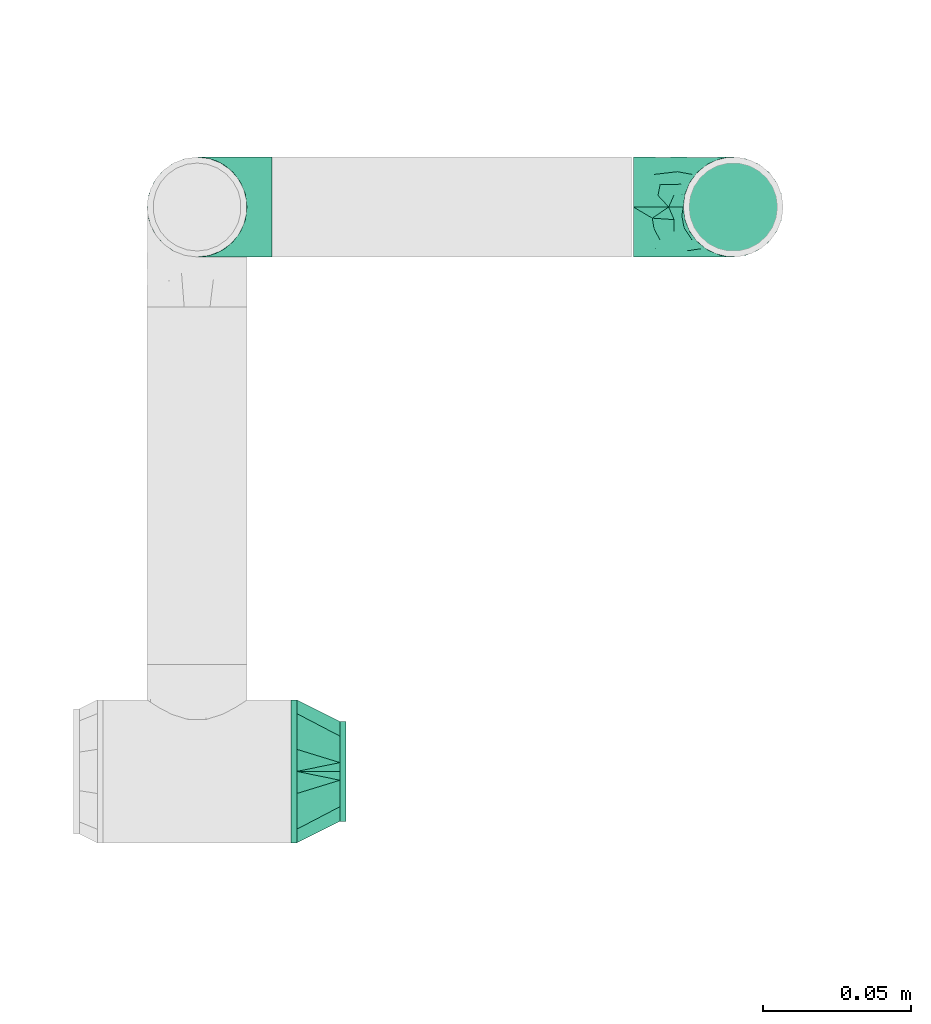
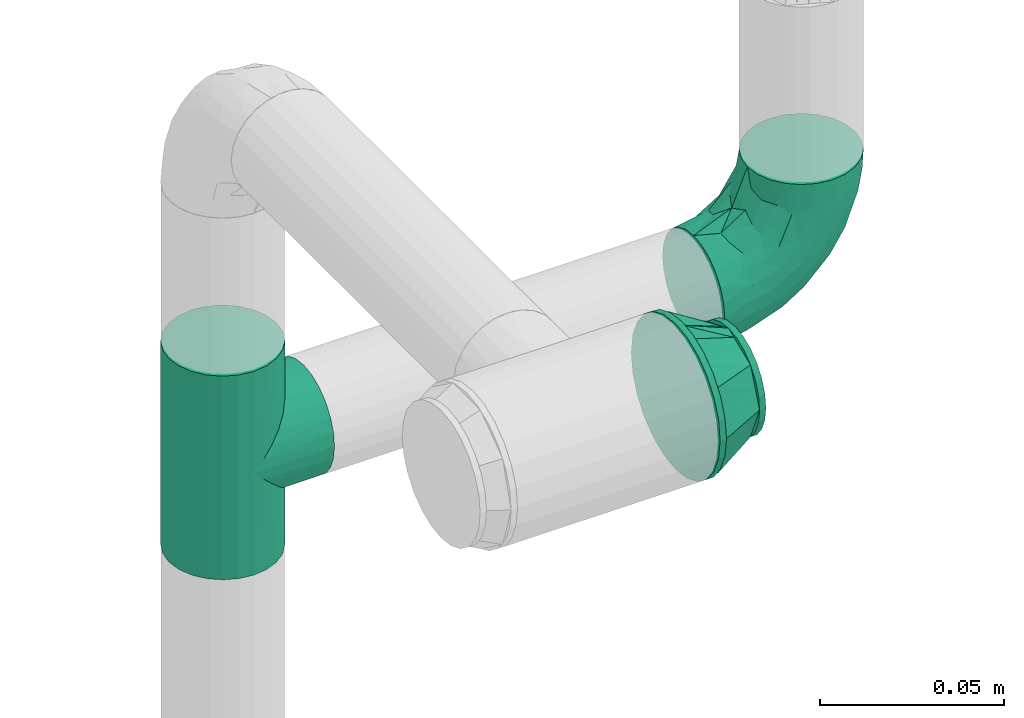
# One storey, part 133 of 157: 3 flow fittings.
"""IFC2X3 building model written with IfcOpenShell, lengths in millimetres."""

from ifc_helpers import new_model, entity, si_unit, converted_unit, derived_unit, direction, frame, origin_with_axes, place, context, subcontext, project, spatial, open_shell, surface_model, source, transform, mapped, type_object, element, save


model = new_model("IFC2X3")

# Units and contexts
model_context = context("Model", 3, precision=0.01, world=frame((0.0, 4.29681676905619e-09, 0.0)), true_north=direction((4.01073788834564e-13, 1.0)))
plan_context = context("Plan", 3, precision=0.01, world=frame((0.0, 4.29681676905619e-09, 0.0)), true_north=direction((4.01073788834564e-13, 1.0)))
body_context = subcontext(model_context, "Body", "Model", "MODEL_VIEW")
ifc_project = project(units=[converted_unit("PLANEANGLEUNIT", "DEGREE", entity("IfcPositiveLengthMeasure", 0.0174532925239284), si_unit("PLANEANGLEUNIT", "RADIAN"), dimensions=[0, 0, 0, 0, 0, 0, 0]), si_unit("AREAUNIT", "SQUARE_METRE"), si_unit("LENGTHUNIT", "METRE", prefix="MILLI"), si_unit("MASSUNIT", "GRAM", prefix="KILO"), si_unit("POWERUNIT", "WATT"), si_unit("PRESSUREUNIT", "PASCAL"), si_unit("FORCEUNIT", "NEWTON", prefix="KILO"), si_unit("ELECTRICCURRENTUNIT", "AMPERE"), si_unit("THERMODYNAMICTEMPERATUREUNIT", "DEGREE_CELSIUS"), si_unit("TIMEUNIT", "SECOND"), si_unit("VOLUMEUNIT", "CUBIC_METRE"), derived_unit("LINEARVELOCITYUNIT", [(si_unit("LENGTHUNIT", "METRE"), 1), (si_unit("TIMEUNIT", "SECOND"), -1)]), derived_unit("VOLUMETRICFLOWRATEUNIT", [(si_unit("VOLUMEUNIT", "CUBIC_METRE"), 1), (si_unit("TIMEUNIT", "SECOND"), -1)]), derived_unit("THERMALTRANSMITTANCEUNIT", [(si_unit("POWERUNIT", "WATT"), 1), (si_unit("THERMODYNAMICTEMPERATUREUNIT", "KELVIN"), -1), (si_unit("AREAUNIT", "SQUARE_METRE"), -1)])], contexts=[model_context, plan_context])

# Site, building, storey
site_placement = place(None, frame((0.0, -4.29681676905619e-09, 0.0), z_axis=(0.0, 0.0, 1.0), x_axis=(1.0, 0.0, 0.0)))
site = spatial("IfcSite", under=ifc_project, at=site_placement, CompositionType="ELEMENT")
building_placement = place(site_placement, frame((0.0, 4.29681676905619e-09, 0.0), z_axis=(0.0, 0.0, 1.0), x_axis=(1.0, 0.0, 0.0)))
building = spatial("IfcBuilding", under=site, at=building_placement, Name="mc-building", CompositionType="ELEMENT")
storey_placement = place(building_placement, frame((0.0, 0.0, 204000.0), z_axis=(0.0, 0.0, 1.0), x_axis=(1.0, 0.0, 0.0)))
storey = spatial("IfcBuildingStorey", under=building, at=storey_placement, Name="Nivå D", CompositionType="ELEMENT", Elevation=204000.0)

# Flow fittings
pipe_fitting_type_1 = type_object("IfcPipeFittingType", Name="magi_pipe_fe_tee_centric_90_NOR", PredefinedType="JUNCTION")
shared_shape_1 = source(origin_with_axes(), body_context, "Body", "SurfaceModel", [
    surface_model("IfcShellBasedSurfaceModel", [(-33.8, 4.37404, -16.32415), (-33.8, 0.0, -16.9), (-33.8, 16.32415, -4.37404), (-33.8, 8.45, -14.63583), (-33.8, 11.9501, -11.9501), (-33.8, 14.63583, -8.45), (-33.8, -16.9, 0.0), (-33.8, -11.9501, -11.9501), (-33.8, -14.63583, -8.45), (-33.8, -8.45, -14.63583), (-33.8, -4.37404, -16.32415), (-33.8, -16.32415, -4.37404), (-33.8, 14.63583, 8.45), (-33.8, 16.32415, 4.37404), (-33.8, -8.45, 14.63583), (-33.8, 8.45, 14.63583), (-33.8, 11.9501, 11.9501), (-33.8, 4.37404, 16.32415), (-33.8, 0.0, 16.9), (-33.8, -11.9501, 11.9501), (-33.8, -14.63583, 8.45), (-33.8, -16.32415, 4.37404), (-33.8, -4.37404, 16.32415), (-33.8, 16.9, 0.0), (33.8, 4.37404, -16.32415), (33.8, -16.9, 0.0), (33.8, 0.0, -16.9), (33.8, 14.63583, -8.45), (33.8, 8.45, -14.63583), (33.8, 16.32415, -4.37404), (33.8, 11.9501, -11.9501), (33.8, -16.32415, 4.37404), (33.8, -8.45, -14.63583), (33.8, -4.37404, -16.32415), (33.8, -11.9501, -11.9501), (33.8, -14.63583, -8.45), (33.8, -16.32415, -4.37404), (33.8, 16.32415, 4.37404), (33.8, 8.45, 14.63583), (33.8, 14.63583, 8.45), (33.8, 11.9501, 11.9501), (33.8, -8.45, 14.63583), (33.8, 4.37404, 16.32415), (33.8, -14.63583, 8.45), (33.8, -11.9501, 11.9501), (33.8, 0.0, 16.9), (33.8, -4.37404, 16.32415), (33.8, 16.9, 0.0), (16.28698, -16.28698, 4.51047), (16.9, -16.9, 0.0), (14.62704, -14.62704, 8.4652), (9.47213, -9.47213, 13.99602), (12.26343, -12.26343, 11.62834), (-16.9, -16.9, 0.0), (-16.28698, -16.28698, 4.51047), (-14.62704, -14.62704, 8.4652), (-12.26343, -12.26343, 11.62834), (-9.47213, -9.47213, 13.99602), (-6.42894, -6.42894, 15.62942), (6.42894, -6.42894, 15.62942), (3.24522, -3.24522, 16.58549), (0.0, 0.0, 16.9), (-3.24522, -3.24522, 16.58549), (3.24522, -3.24522, -16.58549), (0.0, 0.0, -16.9), (-3.24522, -3.24522, -16.58549), (-6.42894, -6.42894, -15.62942), (6.42894, -6.42894, -15.62942), (9.47213, -9.47213, -13.99602), (12.26343, -12.26343, -11.62834), (14.62704, -14.62704, -8.4652), (16.28698, -16.28698, -4.51047), (-9.47213, -9.47213, -13.99602), (-12.26343, -12.26343, -11.62834), (-16.28698, -16.28698, -4.51047), (-14.62704, -14.62704, -8.4652), (4.37404, -25.35, -16.32415), (-16.9, -25.35, 0.0), (0.0, -25.35, -16.9), (14.63583, -25.35, -8.45), (8.45, -25.35, -14.63583), (16.32415, -25.35, -4.37404), (11.9501, -25.35, -11.9501), (-11.9501, -25.35, -11.9501), (-8.45, -25.35, -14.63583), (-4.37404, -25.35, -16.32415), (-14.63583, -25.35, -8.45), (-16.32415, -25.35, -4.37404), (16.9, -25.35, 0.0), (8.45, -25.35, 14.63583), (16.32415, -25.35, 4.37404), (14.63583, -25.35, 8.45), (-8.45, -25.35, 14.63583), (11.9501, -25.35, 11.9501), (4.37404, -25.35, 16.32415), (-16.32415, -25.35, 4.37404), (-11.9501, -25.35, 11.9501), (-14.63583, -25.35, 8.45), (0.0, -25.35, 16.9), (-4.37404, -25.35, 16.32415)], [open_shell([[[0, 1, 2]], [[3, 0, 4]], [[0, 2, 5]], [[4, 0, 5]], [[6, 2, 1]], [[7, 8, 9]], [[1, 10, 9]], [[11, 6, 8]], [[1, 9, 8]], [[1, 8, 6]], [[6, 12, 2]], [[12, 13, 2]], [[14, 12, 6]], [[12, 14, 15]], [[16, 12, 15]], [[17, 15, 18]], [[19, 14, 20]], [[21, 20, 14]], [[22, 18, 14]], [[14, 6, 21]], [[14, 18, 15]], [[23, 2, 13]], [[24, 25, 26]], [[27, 24, 28]], [[27, 29, 24]], [[27, 28, 30]], [[31, 25, 24]], [[26, 32, 33]], [[26, 34, 32]], [[35, 25, 36]], [[35, 34, 26]], [[25, 35, 26]], [[24, 29, 31]], [[29, 37, 38]], [[38, 37, 39]], [[38, 31, 29]], [[38, 39, 40]], [[41, 38, 42]], [[43, 41, 44]], [[41, 43, 31]], [[41, 45, 46]], [[41, 31, 38]], [[42, 45, 41]], [[29, 47, 37]], [[31, 43, 48]], [[25, 31, 49]], [[49, 31, 48]], [[43, 50, 48]], [[44, 41, 51]], [[50, 43, 52]], [[51, 52, 44]], [[52, 43, 44]], [[53, 54, 21]], [[53, 21, 6]], [[21, 54, 20]], [[54, 55, 20]], [[56, 57, 19]], [[19, 20, 56]], [[19, 57, 14]], [[56, 20, 55]], [[14, 57, 58]], [[51, 41, 59]], [[60, 45, 61]], [[59, 46, 60]], [[46, 59, 41]], [[60, 46, 45]], [[61, 45, 42]], [[39, 37, 13]], [[16, 38, 40]], [[12, 40, 39]], [[42, 38, 15]], [[23, 37, 47]], [[62, 61, 18]], [[62, 22, 58]], [[22, 62, 18]], [[58, 22, 14]], [[61, 17, 18]], [[42, 17, 61]], [[15, 17, 42]], [[15, 38, 16]], [[12, 16, 40]], [[13, 12, 39]], [[37, 23, 13]], [[5, 27, 30]], [[23, 47, 29]], [[30, 28, 3]], [[27, 2, 29]], [[26, 33, 63]], [[26, 64, 24]], [[64, 26, 63]], [[28, 24, 0]], [[64, 0, 24]], [[4, 30, 3]], [[2, 27, 5]], [[5, 30, 4]], [[2, 23, 29]], [[65, 66, 10]], [[1, 0, 64]], [[1, 65, 10]], [[66, 9, 10]], [[0, 3, 28]], [[1, 64, 65]], [[63, 33, 67]], [[32, 34, 68]], [[69, 68, 34]], [[35, 70, 69]], [[69, 34, 35]], [[32, 68, 67]], [[36, 25, 49]], [[36, 71, 35]], [[71, 36, 49]], [[35, 71, 70]], [[72, 9, 66]], [[72, 7, 9]], [[7, 72, 73]], [[7, 73, 8]], [[74, 53, 11]], [[75, 74, 8]], [[74, 11, 8]], [[11, 53, 6]], [[75, 8, 73]], [[32, 67, 33]], [[76, 77, 78]], [[79, 76, 80]], [[79, 81, 76]], [[79, 80, 82]], [[77, 76, 81]], [[78, 83, 84]], [[84, 85, 78]], [[86, 77, 87]], [[83, 78, 86]], [[77, 86, 78]], [[81, 88, 77]], [[89, 88, 90]], [[89, 90, 91]], [[92, 77, 89]], [[89, 91, 93]], [[92, 89, 94]], [[95, 96, 97]], [[96, 95, 92]], [[92, 98, 99]], [[95, 77, 92]], [[94, 98, 92]], [[89, 77, 88]], [[77, 95, 53]], [[54, 53, 95]], [[97, 96, 56]], [[96, 92, 57]], [[95, 97, 54]], [[58, 92, 99]], [[55, 54, 97]], [[56, 55, 97]], [[58, 57, 92]], [[98, 61, 62]], [[58, 99, 62]], [[56, 96, 57]], [[62, 99, 98]], [[94, 60, 98]], [[89, 59, 94]], [[91, 90, 48]], [[52, 93, 91]], [[93, 51, 89]], [[49, 90, 88]], [[59, 60, 94]], [[51, 59, 89]], [[49, 48, 90]], [[50, 52, 91]], [[48, 50, 91]], [[51, 93, 52]], [[98, 60, 61]], [[88, 81, 49]], [[71, 49, 81]], [[79, 82, 69]], [[82, 80, 68]], [[81, 79, 71]], [[67, 80, 76]], [[70, 71, 79]], [[69, 70, 79]], [[67, 68, 80]], [[78, 64, 63]], [[67, 76, 63]], [[69, 82, 68]], [[63, 76, 78]], [[85, 65, 78]], [[84, 66, 85]], [[86, 87, 74]], [[86, 73, 83]], [[72, 84, 83]], [[53, 87, 77]], [[66, 65, 85]], [[72, 66, 84]], [[53, 74, 87]], [[75, 73, 86]], [[74, 75, 86]], [[72, 83, 73]], [[78, 65, 64]]])]),
])
flow_fitting_1_placement = place(storey_placement, frame((518009.38219, 420297.85762, 2570.0), z_axis=(0.0, -1.0, 0.0), x_axis=(0.0, 0.0, 1.0)))
element("IfcFlowFitting", 1, at=flow_fitting_1_placement, inside=storey, type_object=pipe_fitting_type_1, Name="magi_pipe_fe_tee_centric_90_NOR", context=body_context, shape_type="MappedRepresentation", body=[
    mapped(shared_shape_1, transform((0.0, 0.0, 0.0), scale=1.0)),
])
pipe_fitting_type_2 = type_object("IfcPipeFittingType", Name="magi_pipe_fe_elbow_short_001", PredefinedType="BEND")
shared_shape_2 = source(origin_with_axes(), body_context, "Body", "SurfaceModel", [
    surface_model("IfcShellBasedSurfaceModel", [(-33.8, 8.45, -14.63583), (-33.8, 4.37404, -16.32415), (-33.8, 11.9501, -11.9501), (-33.8, -11.9501, -11.9501), (-33.8, -14.63583, -8.45), (-33.8, -8.45, -14.63583), (-33.8, 0.0, -16.9), (-33.8, -4.37404, -16.32415), (-33.8, -4.37404, 16.32415), (-33.8, 0.0, 16.9), (-33.8, -8.45, 14.63583), (-33.8, 16.32415, -4.37404), (-33.8, 14.63583, -8.45), (-33.8, -16.32415, -4.37404), (-33.8, -16.9, 0.0), (-33.8, -16.32415, 4.37404), (-33.8, 11.9501, 11.9501), (-33.8, 14.63583, 8.45), (-33.8, 16.32415, 4.37404), (-33.8, 4.37404, 16.32415), (-33.8, 8.45, 14.63583), (-33.8, -14.63583, 8.45), (-33.8, -11.9501, 11.9501), (-33.8, 16.9, 0.0), (-11.9501, 33.8, -11.9501), (0.0, 33.8, -16.9), (-4.37404, 33.8, -16.32415), (-8.45, 33.8, -14.63583), (-14.63583, 33.8, -8.45), (-16.32415, 33.8, -4.37404), (14.63583, 33.8, -8.45), (8.45, 33.8, 14.63583), (16.32415, 33.8, -4.37404), (8.45, 33.8, -14.63583), (11.9501, 33.8, -11.9501), (4.37404, 33.8, -16.32415), (16.32415, 33.8, 4.37404), (16.9, 33.8, 0.0), (-11.9501, 33.8, 11.9501), (-16.32415, 33.8, 4.37404), (-14.63583, 33.8, 8.45), (-8.45, 33.8, 14.63583), (-4.37404, 33.8, 16.32415), (11.9501, 33.8, 11.9501), (14.63583, 33.8, 8.45), (0.0, 33.8, 16.9), (4.37404, 33.8, 16.32415), (-16.9, 33.8, 0.0), (-24.79389, -13.12945, 9.48721), (-22.19287, -9.75018, 12.59315), (-24.09897, -14.97035, 0.0), (-14.93934, -10.76256, 8.5297), (-22.46095, -14.75051, 5.27077), (14.75051, 22.46094, 5.27077), (11.9251, 13.23888, 4.33236), (13.04069, 14.39795, 0.0), (7.71387, 13.68847, 11.55891), (9.75018, 22.19287, 12.59315), (4.10169, 13.0571, 14.04018), (-24.84007, -6.39063, 15.2048), (-25.81779, -2.23879, 16.61097), (-23.66549, 2.59054, 16.87119), (-26.50418, 14.06512, 11.08152), (-24.21253, 17.66365, 7.72657), (-29.58514, 15.86957, 7.00283), (-6.17382, -7.5455, 0.0), (-13.23888, -11.9251, 4.33236), (-14.39795, -13.04069, 0.0), (-17.81434, 18.87373, 11.97104), (-6.30846, 29.15138, 15.82987), (-2.31622, 25.28002, 16.85849), (-29.23923, 10.23435, 13.77053), (-1.45439, -2.85688, 7.61475), (-0.28326, 0.34872, 10.09509), (-5.74484, -4.04709, 10.4122), (-4.41137, 11.31918, 16.59407), (-8.39727, 3.10034, 15.7812), (-1.72649, 9.1306, 15.53089), (-17.39909, 24.75344, 7.64977), (-26.19233, 20.0512, 0.0), (-28.14518, 17.29657, 4.25857), (-26.05147, 6.6281, 15.96447), (-5.87354, 16.61944, 16.86968), (-12.51807, 12.51807, 16.48937), (-10.06312, 7.38516, 16.81295), (-3.01882, 3.01882, 13.81718), (-13.0571, -4.10169, 14.04018), (-16.82553, -0.15166, 16.38038), (10.76256, 14.93934, 8.5297), (13.12945, 24.79389, 9.48721), (6.39063, 24.84007, 15.2048), (2.23879, 25.81779, 16.61097), (-13.68847, -7.71387, 11.55891), (14.97035, 24.09897, 0.0), (-7.30894, 22.89991, 16.09489), (-10.67958, 26.17414, 14.008), (-12.78295, 18.26924, 15.06066), (-13.88562, 22.45231, 12.93244), (-18.04944, 15.16501, 14.04434), (-23.11658, 20.08178, 4.02986), (-21.84989, 21.84989, 0.0), (-18.55817, 25.48277, 3.93065), (-13.95142, 26.94732, 11.03289), (-18.57098, 7.23906, 16.59756), (-16.58335, 4.14122, 16.89279), (-17.96666, 11.46709, 15.63151), (-9.84453, 17.54304, 16.18938), (0.15166, 16.82553, 16.38038), (-23.27207, 11.47201, 14.23154), (3.84842, 5.86994, 10.70473), (-8.0212, -7.54413, 7.93275), (1.00345, -2.19508, 4.57414), (5.13203, 3.01004, 5.90201), (5.24161, 1.7543, 2.53265), (8.70457, 7.04947, 3.99182), (-20.0512, 26.19233, 0.0), (8.4852, 8.76699, 7.09296), (-4.55488, -6.72064, 4.90681), (2.05031, -2.05031, 0.0), (7.5455, 6.17382, 0.0), (-26.75399, 2.1369, -16.845), (-14.61995, 24.73803, -11.27736), (-28.45274, -13.45335, -9.81895), (-26.00469, 6.63555, -15.96645), (-23.06726, 20.04573, -4.26202), (-13.80647, -4.26506, -14.17873), (-14.67501, -0.21081, -16.07388), (-6.7902, -0.2828, -13.8478), (-24.53586, 11.08096, -14.13417), (-26.72048, 14.00837, -11.05776), (10.0967, 24.44989, -12.75976), (5.83237, 21.40218, -15.03047), (6.66249, 28.54238, -15.38093), (-20.38182, 15.48705, -12.74596), (12.53268, 21.23441, -9.15363), (12.54494, 15.67504, -5.54878), (9.7522, 12.89279, -8.66343), (-15.65186, 19.64213, -13.01327), (-12.03528, 20.66498, -14.67665), (-15.61907, 15.61906, -14.83879), (-25.56551, -15.26206, 0.0), (-24.65452, -15.12934, -5.50955), (13.45335, 28.45274, -9.81895), (15.12934, 24.65452, -5.50955), (-7.35442, -8.31014, -5.65563), (-15.67504, -12.54494, -5.54878), (-24.44989, -10.0967, -12.75976), (0.16522, 0.41303, -9.71728), (-5.70658, -5.33066, -8.89288), (-5.13869, -2.37198, -11.53565), (-21.23441, -12.53268, -9.15363), (0.71146, 7.93863, -14.09382), (0.21081, 14.67501, -16.07388), (3.49291, 14.42772, -14.76381), (-24.89911, -2.13088, -16.591), (-28.54238, -6.66249, -15.38093), (-18.44386, -7.71663, -13.26957), (2.13088, 24.89911, -16.591), (-28.64342, 17.44413, -2.89318), (1.70017, -1.28722, -5.09504), (-16.57067, 26.81947, -7.36596), (-17.69055, 27.4263, -3.76405), (-12.89279, -9.7522, -8.66343), (-5.96611, 5.96611, -15.95814), (-20.53709, 20.09345, -8.28985), (-2.1369, 26.75399, -16.845), (-6.89872, 24.58781, -16.02578), (-10.60739, 26.53157, -13.98044), (-21.40218, -5.83237, -15.03047), (2.93192, 5.89627, -11.55917), (6.89393, 12.61842, -11.82233), (5.58056, 5.95325, -8.79455), (-3.99512, 18.61798, -16.89635), (8.31014, 7.35442, -5.65563), (-9.1383, 9.86148, -16.89041), (-9.99983, 16.02119, -16.39699), (-16.68576, 9.78031, -16.34199), (-27.01915, 16.61158, -7.12979), (15.26206, 25.56551, 0.0), (-18.61798, 3.99512, -16.89635), (-19.37495, 27.82495, 0.0), (-12.61842, -6.89393, -11.82233), (-18.84705, 19.14018, -10.96545)], [open_shell([[[0, 1, 2]], [[3, 4, 5]], [[6, 7, 5]], [[8, 9, 10]], [[1, 6, 2]], [[11, 12, 2]], [[4, 2, 6]], [[2, 13, 10]], [[5, 4, 6]], [[2, 4, 13]], [[14, 15, 13]], [[11, 2, 16]], [[11, 17, 18]], [[11, 16, 17]], [[19, 20, 16]], [[16, 2, 10]], [[19, 16, 10]], [[21, 22, 15]], [[22, 13, 15]], [[22, 10, 13]], [[10, 9, 19]], [[11, 18, 23]], [[24, 25, 26]], [[24, 26, 27]], [[24, 28, 29]], [[25, 24, 30]], [[31, 32, 24]], [[33, 30, 34]], [[33, 35, 25]], [[25, 30, 33]], [[32, 30, 24]], [[32, 36, 37]], [[38, 24, 29]], [[39, 40, 29]], [[40, 38, 29]], [[38, 41, 42]], [[38, 31, 24]], [[31, 38, 42]], [[36, 43, 44]], [[36, 32, 43]], [[31, 45, 46]], [[32, 31, 43]], [[42, 45, 31]], [[39, 29, 47]], [[22, 48, 49]], [[15, 14, 50]], [[51, 48, 52]], [[53, 54, 55]], [[48, 22, 21]], [[15, 52, 21]], [[56, 57, 58]], [[49, 10, 22]], [[49, 59, 10]], [[9, 60, 61]], [[62, 63, 64]], [[65, 66, 67]], [[57, 43, 31]], [[62, 68, 63]], [[42, 69, 70]], [[20, 71, 16]], [[8, 60, 9]], [[72, 73, 74]], [[75, 76, 77]], [[16, 62, 17]], [[40, 39, 78]], [[79, 23, 80]], [[64, 18, 17]], [[9, 61, 19]], [[19, 81, 20]], [[82, 83, 84]], [[74, 85, 86]], [[59, 86, 87]], [[88, 89, 57]], [[90, 31, 46]], [[44, 53, 36]], [[46, 45, 91]], [[54, 53, 88]], [[44, 89, 53]], [[92, 86, 49]], [[89, 44, 43]], [[10, 59, 8]], [[53, 55, 93]], [[93, 36, 53]], [[66, 52, 67]], [[94, 82, 70]], [[95, 96, 94]], [[97, 98, 96]], [[79, 99, 100]], [[41, 38, 95]], [[101, 100, 99]], [[68, 78, 63]], [[42, 41, 69]], [[23, 18, 80]], [[95, 94, 69]], [[78, 101, 99]], [[38, 102, 95]], [[70, 45, 42]], [[97, 95, 102]], [[15, 50, 52]], [[90, 57, 31]], [[57, 90, 58]], [[81, 19, 61]], [[103, 104, 84]], [[105, 81, 103]], [[38, 40, 102]], [[106, 96, 83]], [[94, 106, 82]], [[91, 70, 107]], [[71, 62, 16]], [[62, 108, 98]], [[86, 59, 49]], [[67, 52, 50]], [[60, 59, 87]], [[92, 49, 51]], [[86, 85, 76]], [[91, 90, 46]], [[37, 36, 93]], [[107, 77, 58]], [[107, 58, 90]], [[58, 85, 109]], [[110, 74, 92]], [[72, 74, 110]], [[66, 51, 52]], [[72, 111, 112]], [[113, 114, 112]], [[56, 88, 57]], [[52, 48, 21]], [[49, 48, 51]], [[57, 89, 43]], [[53, 89, 88]], [[103, 81, 61]], [[71, 81, 108]], [[18, 64, 80]], [[63, 78, 99]], [[47, 115, 101]], [[101, 115, 100]], [[40, 78, 102]], [[68, 102, 78]], [[97, 96, 95]], [[105, 98, 108]], [[103, 84, 83]], [[107, 70, 82]], [[76, 84, 87]], [[82, 84, 75]], [[70, 91, 45]], [[90, 91, 107]], [[59, 60, 8]], [[61, 60, 87]], [[73, 85, 74]], [[109, 112, 116]], [[103, 61, 104]], [[105, 103, 83]], [[96, 105, 83]], [[81, 105, 108]], [[96, 98, 105]], [[62, 98, 68]], [[61, 87, 104]], [[87, 84, 104]], [[86, 76, 87]], [[77, 76, 85]], [[58, 77, 85]], [[75, 77, 107]], [[82, 75, 107]], [[76, 75, 84]], [[81, 71, 20]], [[62, 71, 108]], [[95, 69, 41]], [[70, 69, 94]], [[62, 64, 17]], [[80, 63, 99]], [[63, 80, 64]], [[80, 99, 79]], [[66, 65, 117]], [[110, 66, 117]], [[112, 114, 116]], [[118, 117, 65]], [[110, 92, 51]], [[112, 111, 113]], [[119, 55, 54]], [[74, 86, 92]], [[58, 109, 56]], [[116, 56, 109]], [[66, 110, 51]], [[72, 110, 117]], [[111, 72, 117]], [[73, 112, 109]], [[117, 118, 111]], [[113, 111, 118]], [[118, 119, 113]], [[114, 119, 54]], [[119, 114, 113]], [[116, 54, 88]], [[54, 116, 114]], [[116, 88, 56]], [[112, 73, 72]], [[85, 73, 109]], [[78, 39, 101]], [[47, 101, 39]], [[102, 68, 97]], [[97, 68, 98]], [[82, 106, 83]], [[94, 96, 106]], [[1, 120, 6]], [[28, 24, 121]], [[3, 122, 4]], [[0, 123, 1]], [[100, 124, 79]], [[125, 126, 127]], [[128, 2, 129]], [[130, 131, 132]], [[128, 129, 133]], [[134, 135, 136]], [[137, 138, 139]], [[128, 0, 2]], [[67, 140, 141]], [[134, 142, 143]], [[141, 13, 4]], [[144, 65, 145]], [[146, 3, 5]], [[147, 148, 149]], [[145, 141, 150]], [[151, 152, 153]], [[154, 7, 6]], [[5, 155, 146]], [[150, 146, 156]], [[155, 5, 7]], [[143, 135, 134]], [[35, 157, 25]], [[23, 79, 158]], [[148, 159, 144]], [[160, 161, 29]], [[145, 162, 144]], [[163, 152, 151]], [[29, 28, 160]], [[121, 164, 160]], [[33, 34, 130]], [[25, 165, 26]], [[26, 165, 166]], [[142, 34, 30]], [[24, 27, 167]], [[124, 161, 164]], [[157, 35, 132]], [[155, 154, 168]], [[123, 0, 128]], [[169, 170, 171]], [[172, 157, 152]], [[26, 166, 27]], [[132, 35, 33]], [[142, 130, 34]], [[168, 154, 126]], [[136, 135, 173]], [[133, 137, 139]], [[2, 12, 129]], [[170, 131, 130]], [[30, 32, 143]], [[172, 174, 175]], [[176, 123, 128]], [[158, 177, 11]], [[135, 55, 119]], [[167, 27, 166]], [[175, 166, 172]], [[137, 167, 138]], [[122, 141, 4]], [[140, 14, 13]], [[32, 37, 178]], [[170, 130, 134]], [[152, 157, 131]], [[165, 157, 172]], [[153, 170, 151]], [[152, 163, 174]], [[168, 125, 156]], [[122, 146, 150]], [[120, 154, 6]], [[179, 174, 126]], [[179, 126, 154]], [[126, 163, 127]], [[162, 145, 150]], [[140, 13, 141]], [[32, 178, 143]], [[55, 143, 178]], [[177, 129, 12]], [[128, 133, 139]], [[176, 128, 139]], [[120, 123, 179]], [[121, 160, 28]], [[161, 100, 180]], [[166, 175, 138]], [[121, 24, 167]], [[161, 47, 29]], [[79, 124, 158]], [[124, 164, 177]], [[161, 124, 100]], [[136, 171, 170]], [[127, 163, 151]], [[147, 171, 159]], [[148, 144, 162]], [[127, 151, 169]], [[127, 181, 125]], [[129, 177, 164]], [[12, 11, 177]], [[159, 65, 144]], [[67, 141, 145]], [[143, 55, 135]], [[135, 119, 173]], [[123, 120, 1]], [[154, 120, 179]], [[157, 165, 25]], [[166, 165, 172]], [[172, 152, 174]], [[176, 139, 175]], [[126, 174, 163]], [[176, 174, 179]], [[174, 176, 175]], [[123, 176, 179]], [[150, 181, 162]], [[127, 149, 181]], [[181, 148, 162]], [[159, 148, 147]], [[171, 136, 173]], [[170, 134, 136]], [[159, 171, 173]], [[171, 147, 169]], [[169, 147, 149]], [[151, 170, 169]], [[164, 182, 129]], [[182, 121, 137]], [[181, 149, 148]], [[169, 149, 127]], [[182, 137, 133]], [[167, 137, 121]], [[166, 138, 167]], [[175, 139, 138]], [[129, 182, 133]], [[121, 182, 164]], [[161, 160, 164]], [[47, 161, 180]], [[177, 158, 124]], [[23, 158, 11]], [[130, 132, 33]], [[157, 132, 131]], [[143, 142, 30]], [[130, 142, 134]], [[154, 155, 7]], [[146, 155, 168]], [[146, 122, 3]], [[141, 122, 150]], [[152, 131, 153]], [[159, 119, 118]], [[67, 145, 65]], [[170, 153, 131]], [[119, 159, 173]], [[159, 118, 65]], [[156, 125, 181]], [[126, 125, 168]], [[150, 156, 181]], [[168, 156, 146]]])]),
])
flow_fitting_2_placement = place(storey_placement, frame((518190.99696, 420297.85762, 2570.0), z_axis=(0.0, 1.0, 0.0), x_axis=(0.0, 0.0, -1.0)))
element("IfcFlowFitting", 2, at=flow_fitting_2_placement, inside=storey, type_object=pipe_fitting_type_2, Name="magi_pipe_fe_elbow_short_001", context=body_context, shape_type="MappedRepresentation", body=[
    mapped(shared_shape_2, transform((0.0, 0.0, 0.0), scale=1.0)),
])
pipe_fitting_type_3 = type_object("IfcPipeFittingType", Name="magi_pipe_fe_reducer_centric_short_NOR", PredefinedType="TRANSITION")
shared_shape_3 = source(origin_with_axes(), body_context, "Body", "SurfaceModel", [
    surface_model("IfcShellBasedSurfaceModel", [(-2.0, 0.0, 24.2), (-2.0, 6.26342, 23.37541), (-2.0, 12.1, 20.95781), (-2.0, 17.11198, 17.11198), (-2.0, 24.2, 0.0), (-2.0, 20.95781, 12.1), (-2.0, -23.37541, 6.26342), (-2.0, -17.11198, -17.11198), (-2.0, -6.26342, 23.37541), (-2.0, -17.11198, 17.11198), (-2.0, -12.1, 20.95781), (-2.0, -20.95781, 12.1), (-2.0, -24.2, 0.0), (-2.0, 23.37541, 6.26342), (-2.0, 23.37541, -6.26342), (-2.0, 6.26342, -23.37541), (-2.0, 17.11198, -17.11198), (-2.0, 20.95781, -12.1), (-2.0, 12.1, -20.95781), (-2.0, -23.37541, -6.26342), (-2.0, -20.95781, -12.1), (-2.0, -6.26342, -23.37541), (-2.0, -12.1, -20.95781), (-2.0, 0.0, -24.2), (0.0, 24.2, 0.0), (0.0, 6.26342, -23.37541), (0.0, 12.1, -20.95781), (0.0, 23.37541, -6.26342), (0.0, 17.11198, -17.11198), (0.0, 20.95781, -12.1), (0.0, -24.2, 0.0), (0.0, -12.1, -20.95781), (0.0, -6.26342, -23.37541), (0.0, 0.0, -24.2), (0.0, -17.11198, -17.11198), (0.0, -23.37541, -6.26342), (0.0, -20.95781, -12.1), (0.0, 20.95781, 12.1), (0.0, 17.11198, 17.11198), (0.0, 12.1, 20.95781), (0.0, 6.26342, 23.37541), (0.0, 0.0, 24.2), (0.0, -23.37541, 6.26342), (0.0, -17.11198, 17.11198), (0.0, -20.95781, 12.1), (0.0, -6.26342, 23.37541), (0.0, -12.1, 20.95781), (0.0, 23.37541, 6.26342), (0.0, 7.47821, 23.01557), (0.0, 19.57821, 14.2244), (0.0, -7.47821, 23.01557), (0.0, 7.47821, -23.01557), (0.0, 19.57821, -14.2244), (0.0, -7.47821, -23.01557), (0.0, -19.57821, -14.2244), (16.6, 4.37404, -16.32415), (16.6, 8.45, -14.63583), (16.6, 11.9501, -11.9501), (16.6, 0.0, -16.9), (16.6, 16.32415, -4.37404), (16.6, 16.32415, 4.37404), (16.6, 14.63583, -8.45), (16.6, -8.45, 14.63583), (16.6, -8.45, -14.63583), (16.6, -4.37404, -16.32415), (16.6, -11.9501, -11.9501), (16.6, -16.32415, -4.37404), (16.6, -14.63583, -8.45), (16.6, -16.32415, 4.37404), (16.6, 16.9, 0.0), (16.6, 14.63583, 8.45), (16.6, 11.9501, 11.9501), (16.6, 4.37404, 16.32415), (16.6, 8.45, 14.63583), (16.6, 0.0, 16.9), (16.6, -14.63583, 8.45), (16.6, -16.9, 0.0), (16.6, -11.9501, 11.9501), (16.6, -4.37404, 16.32415), (14.6, 11.9501, 11.9501), (14.6, 0.0, 16.9), (14.6, 4.37404, 16.32415), (14.6, 8.45, 14.63583), (14.6, 14.63583, 8.45), (14.6, 16.32415, 4.37404), (14.6, -16.32415, 4.37404), (14.6, -8.45, -14.63583), (14.6, -8.45, 14.63583), (14.6, -14.63583, 8.45), (14.6, -11.9501, 11.9501), (14.6, -4.37404, 16.32415), (14.6, -16.32415, -4.37404), (14.6, -16.9, 0.0), (14.6, 16.32415, -4.37404), (14.6, 11.9501, -11.9501), (14.6, 14.63583, -8.45), (14.6, 8.45, -14.63583), (14.6, 4.37404, -16.32415), (14.6, 0.0, -16.9), (14.6, -11.9501, -11.9501), (14.6, -14.63583, -8.45), (14.6, -4.37404, -16.32415), (14.6, 16.9, 0.0), (0.0, -19.57821, 14.2244), (14.6, -13.18758, -8.96258), (14.6, 14.42505, -5.97505), (0.0, 21.8891, -7.1122), (0.0, 13.52821, -18.61999), (0.0, 16.55321, -16.42219), (14.6, -14.42505, -5.97505), (0.0, -21.8891, -7.1122), (0.0, -20.73366, -10.6683), (14.6, 5.97505, -14.42505), (0.0, 0.0, -23.01557), (14.6, -2.98753, -15.66253), (14.6, 2.98753, -15.66253), (14.6, 8.96258, -13.18758), (14.6, 15.66253, -2.98753), (14.6, -15.66253, -2.98753), (0.0, -13.52821, -18.61999), (14.6, -5.97505, -14.42505), (14.6, -8.96258, -13.18758), (14.6, 13.18758, -8.96258), (14.6, 13.18758, 8.96258), (14.6, -14.42505, 5.97505), (0.0, -21.8891, 7.1122), (0.0, -13.52821, 18.61999), (0.0, -16.55321, 16.42219), (14.6, 14.42505, 5.97505), (0.0, 21.8891, 7.1122), (0.0, 20.73366, 10.6683), (14.6, -5.97505, 14.42505), (0.0, 0.0, 23.01557), (14.6, 2.98753, 15.66253), (14.6, -2.98753, 15.66253), (14.6, -8.96258, 13.18758), (14.6, -15.66253, 2.98753), (14.6, 15.66253, 2.98753), (0.0, 13.52821, 18.61999), (14.6, 5.97505, 14.42505), (14.6, 8.96258, 13.18758), (14.6, -13.18758, 8.96258)], [open_shell([[[0, 1, 2]], [[0, 2, 3]], [[4, 3, 5]], [[6, 0, 7]], [[0, 3, 7]], [[8, 9, 10]], [[8, 0, 9]], [[9, 6, 11]], [[0, 6, 9]], [[6, 7, 12]], [[4, 5, 13]], [[3, 14, 15]], [[16, 14, 17]], [[18, 15, 14]], [[18, 14, 16]], [[15, 7, 3]], [[19, 7, 20]], [[12, 7, 19]], [[15, 21, 22]], [[22, 7, 15]], [[21, 15, 23]], [[14, 3, 4]], [[24, 25, 26]], [[27, 26, 28]], [[27, 24, 26]], [[27, 28, 29]], [[25, 30, 31]], [[25, 32, 33]], [[25, 31, 32]], [[34, 35, 36]], [[34, 31, 30]], [[34, 30, 35]], [[25, 24, 37]], [[37, 38, 25]], [[25, 38, 30]], [[39, 40, 41]], [[39, 41, 38]], [[30, 38, 41]], [[42, 43, 44]], [[45, 42, 30]], [[43, 45, 46]], [[45, 43, 42]], [[30, 41, 45]], [[24, 47, 37]], [[19, 35, 12]], [[20, 36, 19]], [[31, 7, 22]], [[20, 7, 34]], [[32, 22, 21]], [[19, 36, 35]], [[35, 30, 12]], [[32, 31, 22]], [[34, 7, 31]], [[34, 36, 20]], [[33, 32, 21]], [[21, 23, 33]], [[15, 25, 23]], [[18, 26, 15]], [[29, 16, 17]], [[18, 16, 28]], [[27, 17, 14]], [[18, 28, 26]], [[26, 25, 15]], [[24, 27, 14]], [[29, 17, 27]], [[29, 28, 16]], [[4, 24, 14]], [[23, 25, 33]], [[13, 47, 4]], [[5, 37, 13]], [[39, 3, 2]], [[5, 3, 38]], [[40, 2, 1]], [[13, 37, 47]], [[47, 24, 4]], [[40, 39, 2]], [[38, 3, 39]], [[38, 37, 5]], [[41, 40, 1]], [[1, 0, 41]], [[8, 45, 0]], [[10, 46, 8]], [[44, 9, 11]], [[10, 9, 43]], [[42, 11, 6]], [[10, 43, 46]], [[46, 45, 8]], [[30, 42, 6]], [[44, 11, 42]], [[44, 43, 9]], [[12, 30, 6]], [[0, 45, 41]], [[48, 49, 50]], [[49, 51, 30]], [[52, 51, 49]], [[30, 53, 54]], [[30, 51, 53]], [[49, 24, 52]], [[55, 56, 57]], [[58, 55, 57]], [[57, 59, 60]], [[59, 57, 61]], [[57, 62, 63]], [[58, 63, 64]], [[58, 57, 63]], [[65, 66, 67]], [[66, 65, 63]], [[63, 68, 66]], [[60, 59, 69]], [[60, 70, 71]], [[60, 71, 72]], [[60, 72, 62]], [[72, 71, 73]], [[62, 72, 74]], [[68, 62, 75]], [[76, 66, 68]], [[75, 62, 77]], [[62, 68, 63]], [[74, 78, 62]], [[57, 60, 62]], [[79, 80, 81]], [[79, 81, 82]], [[79, 83, 84]], [[79, 84, 80]], [[85, 80, 86]], [[87, 88, 89]], [[88, 87, 90]], [[80, 88, 90]], [[80, 85, 88]], [[85, 91, 92]], [[86, 80, 84]], [[84, 93, 94]], [[94, 93, 95]], [[94, 96, 97]], [[86, 84, 94]], [[97, 98, 94]], [[91, 99, 100]], [[99, 91, 86]], [[86, 98, 101]], [[91, 85, 86]], [[94, 98, 86]], [[93, 84, 102]], [[91, 66, 92]], [[100, 67, 91]], [[63, 99, 86]], [[100, 99, 65]], [[64, 86, 101]], [[91, 67, 66]], [[66, 76, 92]], [[64, 63, 86]], [[65, 99, 63]], [[65, 67, 100]], [[58, 64, 101]], [[101, 98, 58]], [[97, 55, 98]], [[96, 56, 97]], [[61, 94, 95]], [[96, 94, 57]], [[59, 95, 93]], [[96, 57, 56]], [[56, 55, 97]], [[69, 59, 93]], [[61, 95, 59]], [[61, 57, 94]], [[102, 69, 93]], [[98, 55, 58]], [[84, 60, 102]], [[83, 70, 84]], [[73, 79, 82]], [[83, 79, 71]], [[72, 82, 81]], [[84, 70, 60]], [[60, 69, 102]], [[72, 73, 82]], [[71, 79, 73]], [[71, 70, 83]], [[74, 72, 81]], [[81, 80, 74]], [[90, 78, 80]], [[87, 62, 90]], [[75, 89, 88]], [[87, 89, 77]], [[68, 88, 85]], [[87, 77, 62]], [[62, 78, 90]], [[76, 68, 85]], [[75, 88, 68]], [[75, 77, 89]], [[92, 76, 85]], [[80, 78, 74]], [[80, 89, 102]], [[102, 79, 80]], [[89, 99, 102]], [[98, 102, 99]], [[94, 102, 98]], [[99, 89, 92]], [[50, 30, 103]], [[30, 50, 49]], [[54, 99, 104]], [[105, 52, 106]], [[94, 107, 108]], [[109, 110, 111]], [[51, 107, 112]], [[113, 114, 53]], [[113, 115, 98]], [[116, 112, 107]], [[24, 117, 106]], [[51, 115, 113]], [[30, 118, 92]], [[99, 54, 119]], [[119, 120, 121]], [[30, 110, 118]], [[117, 24, 102]], [[52, 105, 122]], [[114, 120, 53]], [[114, 113, 98]], [[51, 112, 115]], [[94, 108, 52]], [[109, 118, 110]], [[54, 104, 111]], [[104, 109, 111]], [[94, 52, 122]], [[120, 119, 53]], [[121, 99, 119]], [[117, 105, 106]], [[107, 94, 116]], [[49, 79, 123]], [[124, 103, 125]], [[89, 126, 127]], [[128, 129, 130]], [[50, 126, 131]], [[132, 133, 48]], [[132, 134, 80]], [[135, 131, 126]], [[30, 136, 125]], [[50, 134, 132]], [[24, 137, 102]], [[79, 49, 138]], [[138, 139, 140]], [[24, 129, 137]], [[136, 30, 92]], [[103, 124, 141]], [[133, 139, 48]], [[133, 132, 80]], [[50, 131, 134]], [[89, 127, 103]], [[128, 137, 129]], [[49, 123, 130]], [[123, 128, 130]], [[89, 103, 141]], [[139, 138, 48]], [[140, 79, 138]], [[136, 124, 125]], [[126, 89, 135]]])]),
])
flow_fitting_3_placement = place(storey_placement, frame((518043.18219, 420106.68371, 2690.0), z_axis=(0.0, 0.0, 1.0), x_axis=(1.0, 0.0, 0.0)))
element("IfcFlowFitting", 3, at=flow_fitting_3_placement, inside=storey, type_object=pipe_fitting_type_3, Name="magi_pipe_fe_reducer_centric_short_NOR", context=body_context, shape_type="MappedRepresentation", body=[
    mapped(shared_shape_3, transform((0.0, 0.0, 0.0), scale=1.0)),
])

save(model, "model.ifc")
